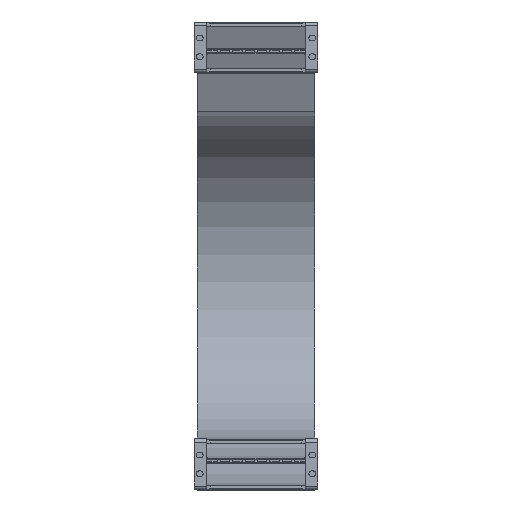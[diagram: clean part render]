
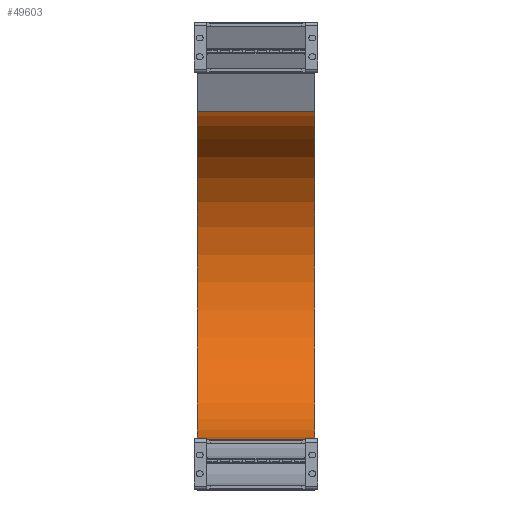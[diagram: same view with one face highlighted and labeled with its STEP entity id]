
A CAD part, top view. The second image highlights one B-rep face of the part: STEP entity #49603.
In plain terms, the highlighted cylindrical face has radius 132.5 mm (diameter 265 mm), a partial arc.
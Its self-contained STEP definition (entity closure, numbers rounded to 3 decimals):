
#48755=DIRECTION('',(-1.,0.,0.));
#48756=VECTOR('',#48755,95.);
#48757=CARTESIAN_POINT('',(47.5,41.,-400.));
#48758=LINE('',#48757,#48756);
#48769=DIRECTION('',(-1.,0.,0.));
#48770=VECTOR('',#48769,95.);
#48771=CARTESIAN_POINT('',(47.5,305.506,-411.43));
#48772=LINE('',#48771,#48770);
#48776=CARTESIAN_POINT('',(47.5,173.5,-400.));
#48777=DIRECTION('',(-1.,0.,0.));
#48778=DIRECTION('',(0.,0.996,-0.086));
#48779=AXIS2_PLACEMENT_3D('',#48776,#48777,#48778);
#48855=CARTESIAN_POINT('',(-47.5,173.5,-400.));
#48856=DIRECTION('',(-1.,0.,0.));
#48857=DIRECTION('',(0.,0.996,-0.086));
#48858=AXIS2_PLACEMENT_3D('',#48855,#48856,#48857);
#48977=CARTESIAN_POINT('',(47.5,305.506,-411.43));
#48978=CARTESIAN_POINT('',(-47.5,305.506,-411.43));
#48979=VERTEX_POINT('',#48977);
#48980=VERTEX_POINT('',#48978);
#49001=CARTESIAN_POINT('',(47.5,41.,-400.));
#49002=CARTESIAN_POINT('',(-47.5,41.,-400.));
#49003=VERTEX_POINT('',#49001);
#49004=VERTEX_POINT('',#49002);
#49589=CARTESIAN_POINT('',(1.,173.5,-400.));
#49590=DIRECTION('',(-1.,0.,0.));
#49591=DIRECTION('',(0.,-0.996,0.086));
#49592=AXIS2_PLACEMENT_3D('',#49589,#49590,#49591);
#49593=CYLINDRICAL_SURFACE('',#49592,132.5);
#49595=ORIENTED_EDGE('',*,*,#49594,.F.);
#49597=ORIENTED_EDGE('',*,*,#49596,.T.);
#49598=ORIENTED_EDGE('',*,*,#49572,.T.);
#49600=ORIENTED_EDGE('',*,*,#49599,.F.);
#49601=EDGE_LOOP('',(#49595,#49597,#49598,#49600));
#49602=FACE_OUTER_BOUND('',#49601,.F.);
#48780=CIRCLE('',#48779,132.5);
#48859=CIRCLE('',#48858,132.5);
#49572=EDGE_CURVE('',#49003,#49004,#48758,.T.);
#49594=EDGE_CURVE('',#48979,#48980,#48772,.T.);
#49596=EDGE_CURVE('',#48979,#49003,#48780,.T.);
#49599=EDGE_CURVE('',#48980,#49004,#48859,.T.);
#49603=ADVANCED_FACE('',(#49602),#49593,.F.);
